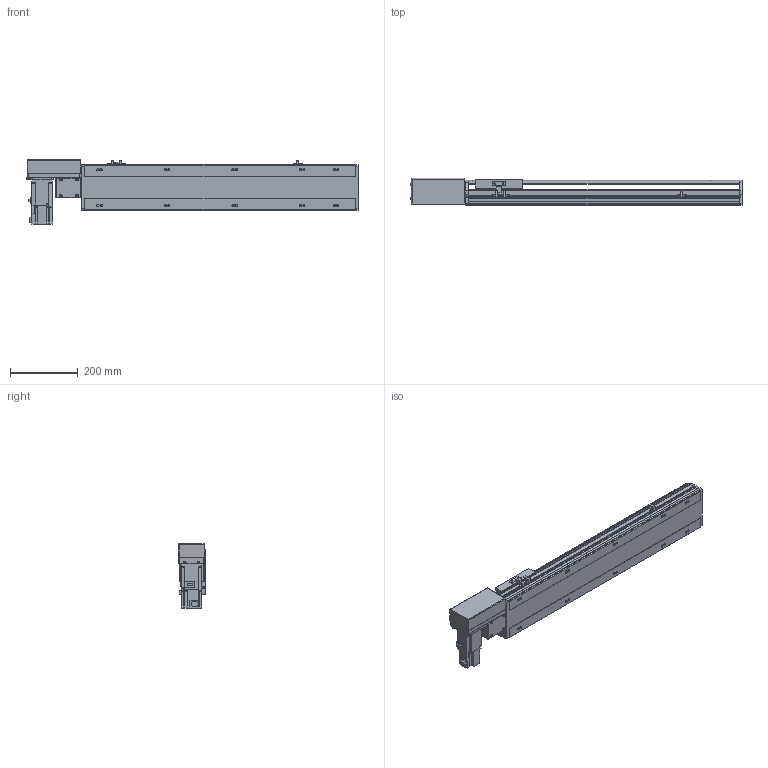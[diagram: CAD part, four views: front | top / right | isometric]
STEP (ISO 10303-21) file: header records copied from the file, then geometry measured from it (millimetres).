
FILE_DESCRIPTION(/* description */ ('STEP AP214'),/* implementation_level */ '2;1');
FILE_NAME(/* name */ 'PBS140-P40-S550-R-T40-C1-N(0)',/* time_stamp */ '2022-06-06T03:27:06+02:00',/* author */ ('License CC BY-ND 4.0'),/* organization */ ('CADENAS'),/* preprocessor_version */ 'ST-DEVELOPER v18.102',/* originating_system */ 'PARTsolutions',/* authorisation */ ' ');
FILE_SCHEMA (('AUTOMOTIVE_DESIGN {1 0 10303 214 3 1 1}'));
Length unit declared in the file: millimetre
Products named in the file (7): PBS140-P40-S550-R-T40-C1-N(0); PBS140_sensor; PBS140_plant; PBS140_sliser; T40-p1; PBS140T-R_motors; PBS140-S550()_body
Assembly tree (8 placements, depth 2):
  PBS140-P40-S550-R-T40-C1-N(0)
    PBS140_sensor  x3
    PBS140_plant
    PBS140_sliser
    T40-p1
    PBS140T-R_motors
    PBS140-S550()_body
Bounding box: 983 x 80.5 x 189.7 mm (x, y, z)
Volume: 4626106.4 mm3; surface area: 827813 mm2
Topology: 8 solids, 8 shells, 1027 faces, 2716 edges, 1775 vertices
Faces by surface type: plane 674, cylinder 307, cone 36, sphere 8, torus 2
Full cylindrical faces by diameter (mm): 3.242 x4, 4 x2, 4.134 x4, 4.4 x8, 4.5 x2, 4.8 x4, 4.917 x18, 5.5 x7, 6 x2, 7 x12, 7.5 x8, 8 x12, 8.5 x4, 10.5 x10, 14 x1, 30 x2, 50 x2
Entity records: 29271 total; most frequent: CARTESIAN_POINT 5329, DIRECTION 4987, ORIENTED_EDGE 4732, EDGE_CURVE 2366, AXIS2_PLACEMENT_3D 1717, VERTEX_POINT 1629, LINE 1553, VECTOR 1553
